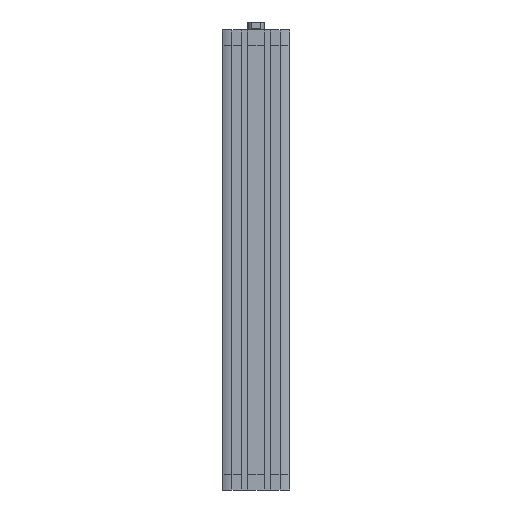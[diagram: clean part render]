
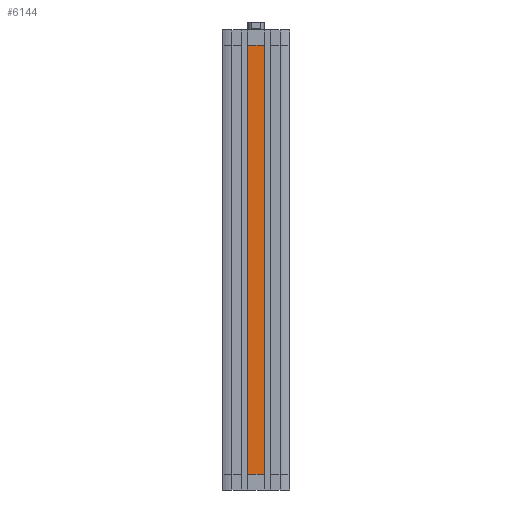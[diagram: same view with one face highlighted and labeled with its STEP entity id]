
A CAD part, front view. The second image highlights one B-rep face of the part: STEP entity #6144.
In plain terms, the highlighted planar face has unit normal (0, -1, 0).
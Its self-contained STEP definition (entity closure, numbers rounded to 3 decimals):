
#46 = DIRECTION ( 'NONE',  ( 0., 0., -1. ) ) ;
#753 = EDGE_LOOP ( 'NONE', ( #9846, #8241, #8331, #3787 ) ) ;
#981 = CARTESIAN_POINT ( 'NONE',  ( 8., -32.5, -430. ) ) ;
#1780 = CARTESIAN_POINT ( 'NONE',  ( 8., -32.5, -430. ) ) ;
#1884 = DIRECTION ( 'NONE',  ( -1., 0., 0. ) ) ;
#2471 = VERTEX_POINT ( 'NONE', #1780 ) ;
#2727 = PLANE ( 'NONE',  #13802 ) ;
#3061 = CARTESIAN_POINT ( 'NONE',  ( -8., -32.5, -430. ) ) ;
#3075 = EDGE_CURVE ( 'NONE', #9919, #2471, #3965, .T. ) ;
#3108 = VERTEX_POINT ( 'NONE', #12638 ) ;
#3369 = DIRECTION ( 'NONE',  ( 0., 0., 1. ) ) ;
#3606 = VECTOR ( 'NONE', #14938, 1000. ) ;
#3787 = ORIENTED_EDGE ( 'NONE', *, *, #10379, .T. ) ;
#3965 = LINE ( 'NONE', #3061, #3606 ) ;
#6144 = ADVANCED_FACE ( 'NONE', ( #14825 ), #2727, .T. ) ;
#6264 = LINE ( 'NONE', #981, #9417 ) ;
#7341 = EDGE_CURVE ( 'NONE', #2471, #3108, #6264, .T. ) ;
#7549 = DIRECTION ( 'NONE',  ( 0., 0., -1. ) ) ;
#8241 = ORIENTED_EDGE ( 'NONE', *, *, #7341, .T. ) ;
#8331 = ORIENTED_EDGE ( 'NONE', *, *, #11338, .T. ) ;
#9024 = CARTESIAN_POINT ( 'NONE',  ( 0., -32.5, -15. ) ) ;
#9057 = CARTESIAN_POINT ( 'NONE',  ( -8., -32.5, -15. ) ) ;
#9417 = VECTOR ( 'NONE', #3369, 1000. ) ;
#9846 = ORIENTED_EDGE ( 'NONE', *, *, #3075, .T. ) ;
#9919 = VERTEX_POINT ( 'NONE', #10576 ) ;
#10379 = EDGE_CURVE ( 'NONE', #11911, #9919, #10573, .T. ) ;
#10573 = LINE ( 'NONE', #13075, #10951 ) ;
#10576 = CARTESIAN_POINT ( 'NONE',  ( -8., -32.5, -430. ) ) ;
#10951 = VECTOR ( 'NONE', #46, 1000. ) ;
#11338 = EDGE_CURVE ( 'NONE', #3108, #11911, #14995, .T. ) ;
#11911 = VERTEX_POINT ( 'NONE', #9057 ) ;
#12259 = CARTESIAN_POINT ( 'NONE',  ( -8., -32.5, -430. ) ) ;
#12638 = CARTESIAN_POINT ( 'NONE',  ( 8., -32.5, -15. ) ) ;
#13075 = CARTESIAN_POINT ( 'NONE',  ( -8., -32.5, -430. ) ) ;
#13802 = AXIS2_PLACEMENT_3D ( 'NONE', #12259, #14617, #7549 ) ;
#14267 = VECTOR ( 'NONE', #1884, 1000. ) ;
#14617 = DIRECTION ( 'NONE',  ( 0., -1., 0. ) ) ;
#14825 = FACE_OUTER_BOUND ( 'NONE', #753, .T. ) ;
#14938 = DIRECTION ( 'NONE',  ( 1., 0., 0. ) ) ;
#14995 = LINE ( 'NONE', #9024, #14267 ) ;
